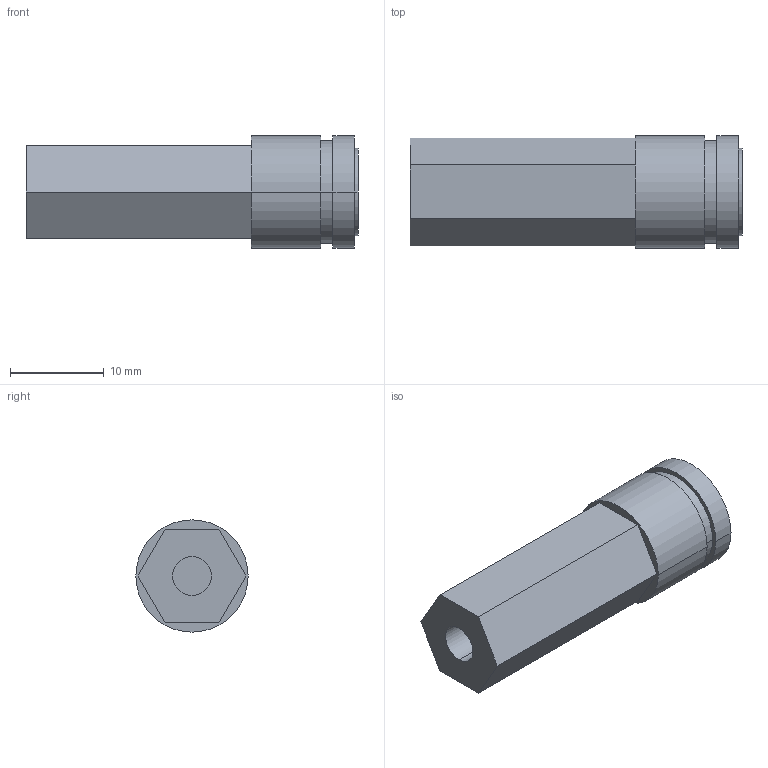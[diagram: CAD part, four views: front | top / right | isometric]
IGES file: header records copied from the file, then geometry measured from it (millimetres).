
Global section: file name: No Iges File Name specified; native system: Autodesk Inventor 2009; preprocessor: AutoDesk Inventor Iges Exporter R2009; author: y-shimohigashi; date: 20080701.102152; units: millimetre
Bounding box: 35.5 x 12 x 12 mm (x, y, z)
Volume: 2731.3 mm3; surface area: 1917.8 mm2
Topology: 1 solids, 1 shells, 26 faces, 54 edges, 36 vertices
Faces by surface type: plane 12, cylinder 8, bspline 6
